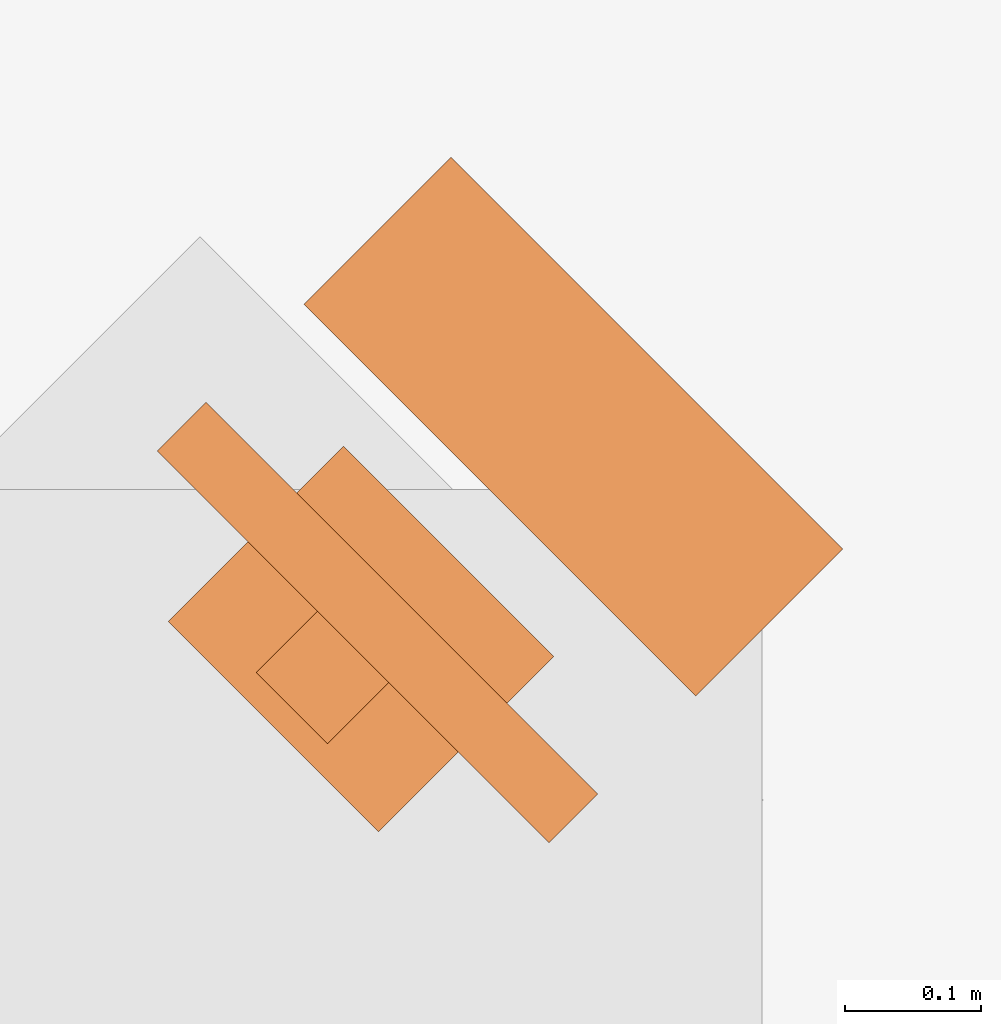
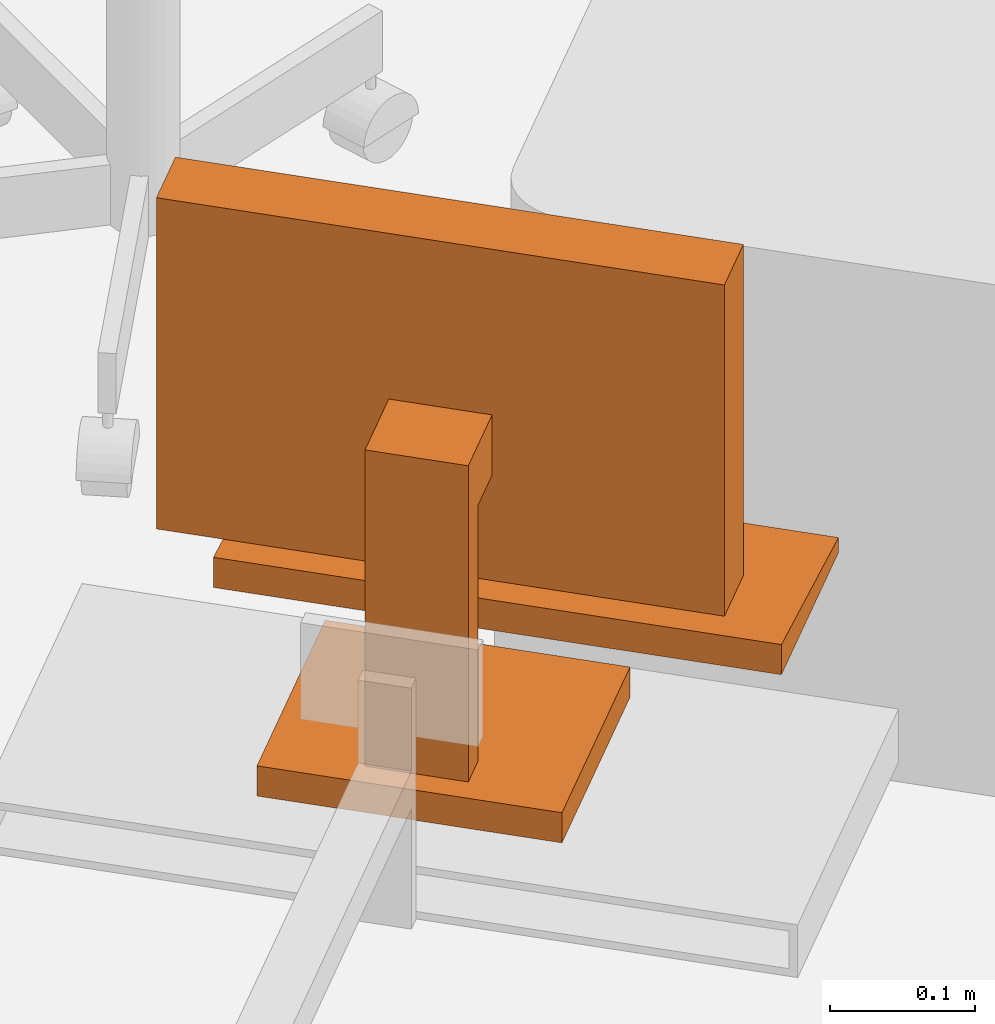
# One storey, part 8 of 9: 1 proxy.
"""IFC2X3 building model written with IfcOpenShell, lengths in feet."""

from ifc_helpers import new_model, entity, si_unit, converted_unit, derived_unit, direction, frame, origin, place, context, subcontext, project, spatial, faceted_brep, source, transform, mapped, type_object, type_shapes, element, save


model = new_model("IFC2X3")

# Units and contexts
model_context = context("Model", 3, precision=0.0001, world=origin(), true_north=direction((6.12303176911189e-17, 1.0)))
body_context = subcontext(model_context, "Body", "Model", "MODEL_VIEW")
ifc_project = project(units=[converted_unit("LENGTHUNIT", "FOOT", entity("IfcRatioMeasure", 0.3048), si_unit("LENGTHUNIT", "METRE"), dimensions=[1, 0, 0, 0, 0, 0, 0]), converted_unit("AREAUNIT", "SQUARE FOOT", entity("IfcRatioMeasure", 0.09290304), si_unit("AREAUNIT", "SQUARE_METRE"), dimensions=[2, 0, 0, 0, 0, 0, 0]), converted_unit("VOLUMEUNIT", "CUBIC FOOT", entity("IfcRatioMeasure", 0.028316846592), si_unit("VOLUMEUNIT", "CUBIC_METRE"), dimensions=[3, 0, 0, 0, 0, 0, 0]), converted_unit("PLANEANGLEUNIT", "DEGREE", entity("IfcRatioMeasure", 0.0174532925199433), si_unit("PLANEANGLEUNIT", "RADIAN"), dimensions=[0, 0, 0, 0, 0, 0, 0]), si_unit("MASSUNIT", "GRAM", prefix="KILO"), derived_unit("MASSDENSITYUNIT", [(si_unit("MASSUNIT", "GRAM", prefix="KILO"), 1), (si_unit("LENGTHUNIT", "METRE"), -3)]), si_unit("TIMEUNIT", "SECOND"), si_unit("FREQUENCYUNIT", "HERTZ"), si_unit("THERMODYNAMICTEMPERATUREUNIT", "DEGREE_CELSIUS"), derived_unit("THERMALTRANSMITTANCEUNIT", [(si_unit("MASSUNIT", "GRAM", prefix="KILO"), 1), (si_unit("THERMODYNAMICTEMPERATUREUNIT", "KELVIN"), -1), (si_unit("TIMEUNIT", "SECOND"), -3)]), derived_unit("VOLUMETRICFLOWRATEUNIT", [(si_unit("LENGTHUNIT", "METRE"), 3), (si_unit("TIMEUNIT", "SECOND"), -1)]), si_unit("ELECTRICCURRENTUNIT", "AMPERE"), si_unit("ELECTRICVOLTAGEUNIT", "VOLT"), si_unit("POWERUNIT", "WATT"), si_unit("FORCEUNIT", "NEWTON"), si_unit("ILLUMINANCEUNIT", "LUX"), si_unit("LUMINOUSFLUXUNIT", "LUMEN"), si_unit("LUMINOUSINTENSITYUNIT", "CANDELA"), derived_unit("USERDEFINED", [(si_unit("MASSUNIT", "GRAM", prefix="KILO"), -1), (si_unit("LENGTHUNIT", "METRE"), -2), (si_unit("TIMEUNIT", "SECOND"), 3), (si_unit("LUMINOUSFLUXUNIT", "LUMEN"), 1)]), derived_unit("LINEARVELOCITYUNIT", [(si_unit("LENGTHUNIT", "METRE"), 1), (si_unit("TIMEUNIT", "SECOND"), -1)]), si_unit("PRESSUREUNIT", "PASCAL"), derived_unit("USERDEFINED", [(si_unit("LENGTHUNIT", "METRE"), -2), (si_unit("MASSUNIT", "GRAM", prefix="KILO"), 1), (si_unit("TIMEUNIT", "SECOND"), -2)])], contexts=[model_context])

# Site, building, storey, space
site_placement = place(None, origin())
site = spatial("IfcSite", under=ifc_project, at=site_placement, Name="Default", CompositionType="ELEMENT")
building_placement = place(site_placement, origin())
building = spatial("IfcBuilding", under=site, at=building_placement, Name="OUTPATIENT / PACT CLINIC (Ch. 265)", CompositionType="ELEMENT")
storey_placement = place(building_placement, origin())
storey = spatial("IfcBuildingStorey", under=building, at=storey_placement, Name="DATUM", CompositionType="ELEMENT", Elevation=0.0)
space_placement = place(storey_placement, origin())
space = spatial("IfcSpace", under=storey, at=space_placement, Name="WRTM2", CompositionType="ELEMENT", InteriorOrExteriorSpace="INTERNAL")

# Proxy
building_element_proxy_type = type_object("IfcBuildingElementProxyType", Name="M1801 - Computer with Flat Panel Monitor", PredefinedType="NOTDEFINED")
shared_shape = source(origin(), body_context, "Body", "Brep", [
    faceted_brep([(0.666666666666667, -0.5625, 0.0), (0.666666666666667, -0.0624999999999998, 0.0), (0.666666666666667, -0.0624999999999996, 0.0833333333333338), (0.666666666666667, -0.5625, 0.0416666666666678), (-0.666666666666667, -0.5625, 0.0), (-0.666666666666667, -0.5625, 0.0416666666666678), (-0.666666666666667, -0.0624999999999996, 0.0833333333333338), (-0.666666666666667, -0.0624999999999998, 0.0)], [[[0, 1, 2, 3]], [[4, 5, 6, 7]], [[1, 0, 4, 7]], [[2, 1, 7, 6]], [[3, 2, 6, 5]], [[0, 3, 5, 4]]]),
    faceted_brep([(0.666666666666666, 0.437223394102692, 1.41666666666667), (-0.666666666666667, 0.437223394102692, 1.41666666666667), (-0.666666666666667, 0.271109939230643, 1.41666666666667), (0.666666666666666, 0.271109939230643, 1.41666666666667), (0.666666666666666, 0.437223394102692, 0.500000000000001), (0.666666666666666, 0.271109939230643, 0.500000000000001), (-0.666666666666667, 0.271109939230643, 0.500000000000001), (-0.666666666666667, 0.437223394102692, 0.500000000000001), (-0.625, 0.271109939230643, 1.375), (0.625, 0.271109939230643, 1.375), (0.625, 0.271109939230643, 0.541666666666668), (-0.625, 0.271109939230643, 0.541666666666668), (0.625, 0.286812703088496, 1.375), (-0.625, 0.286812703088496, 1.375), (0.625, 0.286812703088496, 0.541666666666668), (-0.625, 0.286812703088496, 0.541666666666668)], [[[0, 1, 2, 3]], [[4, 5, 6, 7]], [[1, 0, 4, 7]], [[2, 1, 7, 6]], [[3, 2, 6, 5], [8, 9, 10, 11]], [[0, 3, 5, 4]], [[12, 9, 8, 13]], [[14, 15, 11, 10]], [[12, 13, 15, 14]], [[13, 8, 11, 15]], [[9, 12, 14, 10]]]),
    faceted_brep([(0.358011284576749, 0.111770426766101, 0.0833333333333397), (0.358011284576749, 0.111770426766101, 0.0), (0.358011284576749, 0.708333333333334, 0.0), (0.358011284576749, 0.708333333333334, 0.0833333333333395), (-0.358011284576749, 0.708333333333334, 0.0833333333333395), (-0.358011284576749, 0.708333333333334, 0.0), (-0.358011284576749, 0.111770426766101, 0.0), (-0.358011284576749, 0.111770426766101, 0.0833333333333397), (0.12128795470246, 0.645556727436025, 0.104166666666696), (0.12128795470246, 0.645556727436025, 0.0833333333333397), (-0.12128795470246, 0.645556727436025, 0.0833333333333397), (-0.12128795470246, 0.645556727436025, 0.104166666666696), (0.12128795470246, 0.645556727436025, 0.958333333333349), (-0.12128795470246, 0.645556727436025, 0.958333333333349), (0.12128795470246, 0.437223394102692, 0.958333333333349), (-0.12128795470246, 0.437223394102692, 0.958333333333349), (0.12128795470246, 0.437223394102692, 0.791666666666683), (-0.12128795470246, 0.437223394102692, 0.791666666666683), (0.12128795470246, 0.562223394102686, 0.791666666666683), (-0.12128795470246, 0.562223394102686, 0.791666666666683), (0.12128795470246, 0.562223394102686, 0.0833333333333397), (-0.12128795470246, 0.562223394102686, 0.0833333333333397)], [[[0, 1, 2, 3]], [[4, 5, 6, 7]], [[8, 9, 10, 11]], [[12, 8, 11, 13]], [[14, 12, 13, 15]], [[16, 14, 15, 17]], [[18, 16, 17, 19]], [[20, 18, 19, 21]], [[0, 3, 4, 7], [9, 20, 21, 10]], [[1, 0, 7, 6]], [[2, 1, 6, 5]], [[3, 2, 5, 4]], [[20, 9, 8, 12, 14, 16, 18]], [[10, 21, 19, 17, 15, 13, 11]]]),
])
type_shapes(building_element_proxy_type, [shared_shape])
proxy_placement = place(space_placement, frame((215.286292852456, -859.892268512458, 3.14583333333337), z_axis=(0.0, 0.0, 1.0), x_axis=(-0.707106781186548, 0.707106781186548, 0.0)))
element("IfcBuildingElementProxy", 1, at=proxy_placement, inside=space, type_object=building_element_proxy_type, Name="M1801 - Computer with Flat Panel Monitor:M1801 - Computer with Flat Panel Monitor", ObjectType="M1801 - Computer with Flat Panel Monitor", context=body_context, shape_type="MappedRepresentation", body=[
    mapped(shared_shape, transform((0.0, 0.0, 0.0), scale=1.0)),
])

save(model, "model.ifc")
